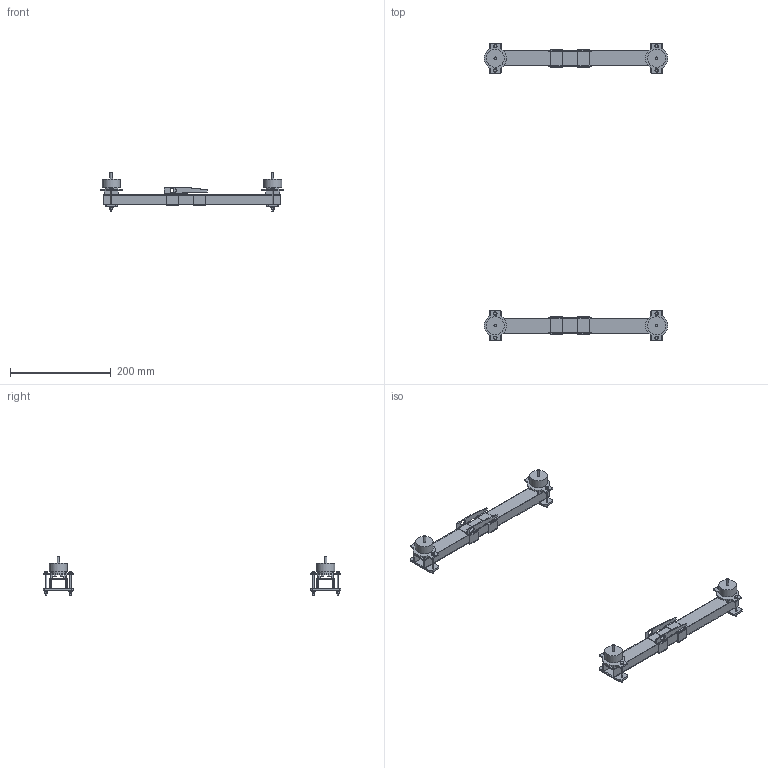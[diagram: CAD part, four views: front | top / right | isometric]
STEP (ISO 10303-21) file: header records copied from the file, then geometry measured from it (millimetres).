
FILE_DESCRIPTION(('FreeCAD Model'),'2;1');
FILE_NAME('Open CASCADE Shape Model','2026-10-23T14:53:33',('FreeCAD'),( 'FreeCAD'),'Open CASCADE STEP processor 7.8','FreeCAD','Unknown');
FILE_SCHEMA(('AUTOMOTIVE_DESIGN { 1 0 10303 214 1 1 1 1 }'));
Length unit declared in the file: millimetre
Products named in the file (1): Open CASCADE STEP translator 7.8 1
Bounding box: 363.92 x 590 x 78 mm (x, y, z)
Volume: 222213.8 mm3; surface area: 251514.6 mm2
Topology: 122 solids, 122 shells, 958 faces, 1918 edges, 1244 vertices
Faces by surface type: plane 708, cylinder 208, bspline 38, cone 4
Full cylindrical faces by diameter (mm): 3 x48, 3.2 x32, 3.4 x32, 5 x4, 5.5 x24, 7 x32, 10 x4, 25.5 x4, 35.4 x4
Entity records: 40078 total; most frequent: CARTESIAN_POINT 19931, DIRECTION 4070, ORIENTED_EDGE 3836, EDGE_CURVE 1918, LINE 1364, VECTOR 1364, AXIS2_PLACEMENT_3D 1353, VERTEX_POINT 1244
